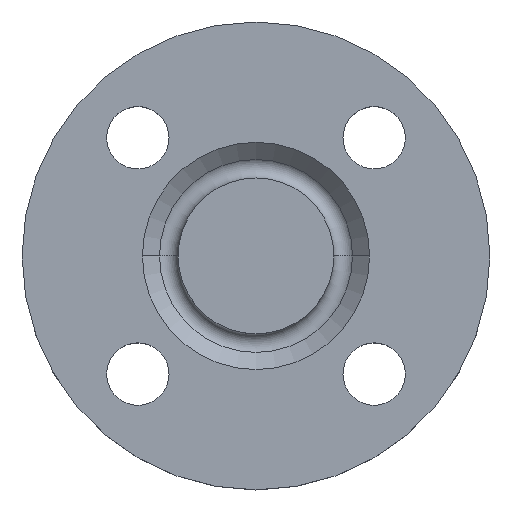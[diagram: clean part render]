
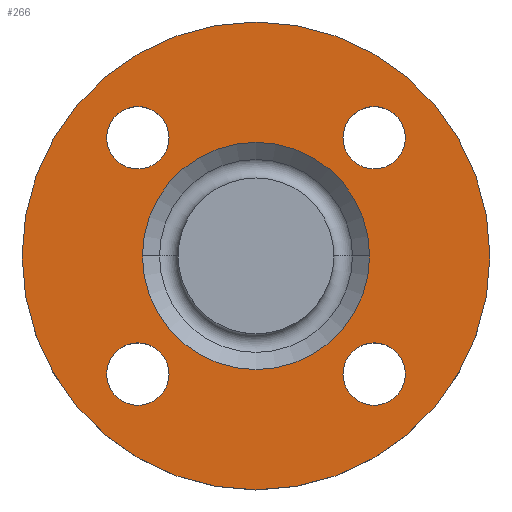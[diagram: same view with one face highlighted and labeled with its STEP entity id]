
A CAD part, top view. The second image highlights one B-rep face of the part: STEP entity #266.
In plain terms, the highlighted planar face has unit normal (0, 0, 1).
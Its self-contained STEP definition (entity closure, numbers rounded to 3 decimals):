
#2 = EDGE_CURVE ( 'NONE', #337, #531, #328, .T. ) ;
#8 = DIRECTION ( 'NONE',  ( -1., 0., 0. ) ) ;
#10 = DIRECTION ( 'NONE',  ( 0., 0., -1. ) ) ;
#11 = CARTESIAN_POINT ( 'NONE',  ( 0., 0., -2. ) ) ;
#38 = EDGE_CURVE ( 'NONE', #509, #551, #313, .T. ) ;
#41 = CARTESIAN_POINT ( 'NONE',  ( -25.5, 0., -2. ) ) ;
#49 = CARTESIAN_POINT ( 'NONE',  ( 19.517, 26.517, -2. ) ) ;
#51 = CARTESIAN_POINT ( 'NONE',  ( -33.517, -26.517, -2. ) ) ;
#67 = CARTESIAN_POINT ( 'NONE',  ( -33.517, 26.517, -2. ) ) ;
#70 = CARTESIAN_POINT ( 'NONE',  ( 26.517, -26.517, -2. ) ) ;
#120 = CIRCLE ( 'NONE', #131, 7. ) ;
#127 = CIRCLE ( 'NONE', #341, 7. ) ;
#131 = AXIS2_PLACEMENT_3D ( 'NONE', #70, #280, #286 ) ;
#132 = CIRCLE ( 'NONE', #437, 52.5 ) ;
#142 = AXIS2_PLACEMENT_3D ( 'NONE', #569, #571, #572 ) ;
#156 = CIRCLE ( 'NONE', #282, 25.5 ) ;
#173 = CARTESIAN_POINT ( 'NONE',  ( 52.5, 0., -2. ) ) ;
#175 = AXIS2_PLACEMENT_3D ( 'NONE', #720, #721, #722 ) ;
#197 = EDGE_CURVE ( 'NONE', #551, #509, #666, .T. ) ;
#204 = EDGE_CURVE ( 'NONE', #544, #332, #409, .T. ) ;
#216 = EDGE_CURVE ( 'NONE', #543, #333, #399, .T. ) ;
#217 = EDGE_CURVE ( 'NONE', #457, #550, #621, .T. ) ;
#235 = CARTESIAN_POINT ( 'NONE',  ( -26.517, -26.517, -2. ) ) ;
#236 = DIRECTION ( 'NONE',  ( 0., 0., -1. ) ) ;
#237 = DIRECTION ( 'NONE',  ( 1., 0., 0. ) ) ;
#248 = CARTESIAN_POINT ( 'NONE',  ( 33.517, 26.517, -2. ) ) ;
#253 = EDGE_CURVE ( 'NONE', #533, #521, #127, .T. ) ;
#258 = CARTESIAN_POINT ( 'NONE',  ( 0., 0., -2. ) ) ;
#259 = DIRECTION ( 'NONE',  ( 0., 0., -1. ) ) ;
#262 = DIRECTION ( 'NONE',  ( -1., 0., 0. ) ) ;
#265 = CARTESIAN_POINT ( 'NONE',  ( -19.517, 26.517, -2. ) ) ;
#266 = ADVANCED_FACE ( 'NONE', ( #700, #703, #705, #706, #707, #709 ), #710, .T. ) ;
#273 = CARTESIAN_POINT ( 'NONE',  ( 19.517, -26.517, -2. ) ) ;
#279 = CARTESIAN_POINT ( 'NONE',  ( -52.5, 0., -2. ) ) ;
#280 = DIRECTION ( 'NONE',  ( 0., 0., -1. ) ) ;
#282 = AXIS2_PLACEMENT_3D ( 'NONE', #11, #10, #8 ) ;
#286 = DIRECTION ( 'NONE',  ( 1., 0., 0. ) ) ;
#288 = CARTESIAN_POINT ( 'NONE',  ( 33.517, -26.517, -2. ) ) ;
#291 = CIRCLE ( 'NONE', #324, 7. ) ;
#298 = EDGE_CURVE ( 'NONE', #550, #457, #489, .T. ) ;
#313 = CIRCLE ( 'NONE', #142, 7. ) ;
#324 = AXIS2_PLACEMENT_3D ( 'NONE', #235, #236, #237 ) ;
#327 = AXIS2_PLACEMENT_3D ( 'NONE', #559, #560, #561 ) ;
#328 = CIRCLE ( 'NONE', #327, 52.5 ) ;
#332 = VERTEX_POINT ( 'NONE', #741 ) ;
#333 = VERTEX_POINT ( 'NONE', #742 ) ;
#337 = VERTEX_POINT ( 'NONE', #173 ) ;
#341 = AXIS2_PLACEMENT_3D ( 'NONE', #696, #698, #699 ) ;
#344 = EDGE_LOOP ( 'NONE', ( #424, #429 ) ) ;
#399 = CIRCLE ( 'NONE', #728, 25.5 ) ;
#402 = AXIS2_PLACEMENT_3D ( 'NONE', #655, #656, #657 ) ;
#405 = EDGE_LOOP ( 'NONE', ( #430, #433 ) ) ;
#407 = ORIENTED_EDGE ( 'NONE', *, *, #632, .T. ) ;
#408 = ORIENTED_EDGE ( 'NONE', *, *, #253, .T. ) ;
#409 = CIRCLE ( 'NONE', #410, 7. ) ;
#410 = AXIS2_PLACEMENT_3D ( 'NONE', #662, #663, #664 ) ;
#412 = AXIS2_PLACEMENT_3D ( 'NONE', #675, #677, #679 ) ;
#418 = ORIENTED_EDGE ( 'NONE', *, *, #421, .T. ) ;
#421 = EDGE_CURVE ( 'NONE', #332, #544, #291, .T. ) ;
#423 = ORIENTED_EDGE ( 'NONE', *, *, #204, .T. ) ;
#424 = ORIENTED_EDGE ( 'NONE', *, *, #38, .T. ) ;
#429 = ORIENTED_EDGE ( 'NONE', *, *, #197, .T. ) ;
#430 = ORIENTED_EDGE ( 'NONE', *, *, #217, .T. ) ;
#433 = ORIENTED_EDGE ( 'NONE', *, *, #298, .T. ) ;
#434 = ORIENTED_EDGE ( 'NONE', *, *, #676, .T. ) ;
#435 = ORIENTED_EDGE ( 'NONE', *, *, #216, .T. ) ;
#437 = AXIS2_PLACEMENT_3D ( 'NONE', #258, #259, #262 ) ;
#438 = ORIENTED_EDGE ( 'NONE', *, *, #2, .F. ) ;
#439 = ORIENTED_EDGE ( 'NONE', *, *, #503, .F. ) ;
#457 = VERTEX_POINT ( 'NONE', #248 ) ;
#489 = CIRCLE ( 'NONE', #175, 7. ) ;
#503 = EDGE_CURVE ( 'NONE', #531, #337, #132, .T. ) ;
#509 = VERTEX_POINT ( 'NONE', #265 ) ;
#510 = EDGE_LOOP ( 'NONE', ( #418, #423 ) ) ;
#511 = EDGE_LOOP ( 'NONE', ( #408, #407 ) ) ;
#521 = VERTEX_POINT ( 'NONE', #273 ) ;
#526 = EDGE_LOOP ( 'NONE', ( #434, #435 ) ) ;
#531 = VERTEX_POINT ( 'NONE', #279 ) ;
#533 = VERTEX_POINT ( 'NONE', #288 ) ;
#542 = EDGE_LOOP ( 'NONE', ( #438, #439 ) ) ;
#543 = VERTEX_POINT ( 'NONE', #41 ) ;
#544 = VERTEX_POINT ( 'NONE', #51 ) ;
#550 = VERTEX_POINT ( 'NONE', #49 ) ;
#551 = VERTEX_POINT ( 'NONE', #67 ) ;
#559 = CARTESIAN_POINT ( 'NONE',  ( 0., 0., -2. ) ) ;
#560 = DIRECTION ( 'NONE',  ( 0., 0., -1. ) ) ;
#561 = DIRECTION ( 'NONE',  ( -1., 0., 0. ) ) ;
#569 = CARTESIAN_POINT ( 'NONE',  ( -26.517, 26.517, -2. ) ) ;
#571 = DIRECTION ( 'NONE',  ( 0., 0., -1. ) ) ;
#572 = DIRECTION ( 'NONE',  ( 1., 0., 0. ) ) ;
#621 = CIRCLE ( 'NONE', #412, 7. ) ;
#632 = EDGE_CURVE ( 'NONE', #521, #533, #120, .T. ) ;
#655 = CARTESIAN_POINT ( 'NONE',  ( -26.517, 26.517, -2. ) ) ;
#656 = DIRECTION ( 'NONE',  ( 0., 0., -1. ) ) ;
#657 = DIRECTION ( 'NONE',  ( 1., 0., 0. ) ) ;
#662 = CARTESIAN_POINT ( 'NONE',  ( -26.517, -26.517, -2. ) ) ;
#663 = DIRECTION ( 'NONE',  ( 0., 0., -1. ) ) ;
#664 = DIRECTION ( 'NONE',  ( 1., 0., 0. ) ) ;
#666 = CIRCLE ( 'NONE', #402, 7. ) ;
#672 = CARTESIAN_POINT ( 'NONE',  ( 0., 0., -2. ) ) ;
#673 = DIRECTION ( 'NONE',  ( 0., 0., -1. ) ) ;
#674 = DIRECTION ( 'NONE',  ( -1., 0., 0. ) ) ;
#675 = CARTESIAN_POINT ( 'NONE',  ( 26.517, 26.517, -2. ) ) ;
#676 = EDGE_CURVE ( 'NONE', #333, #543, #156, .T. ) ;
#677 = DIRECTION ( 'NONE',  ( 0., 0., -1. ) ) ;
#679 = DIRECTION ( 'NONE',  ( 1., 0., 0. ) ) ;
#696 = CARTESIAN_POINT ( 'NONE',  ( 26.517, -26.517, -2. ) ) ;
#698 = DIRECTION ( 'NONE',  ( 0., 0., -1. ) ) ;
#699 = DIRECTION ( 'NONE',  ( 1., 0., 0. ) ) ;
#700 = FACE_BOUND ( 'NONE', #511, .T. ) ;
#703 = FACE_BOUND ( 'NONE', #510, .T. ) ;
#705 = FACE_BOUND ( 'NONE', #344, .T. ) ;
#706 = FACE_BOUND ( 'NONE', #405, .T. ) ;
#707 = FACE_BOUND ( 'NONE', #526, .T. ) ;
#709 = FACE_OUTER_BOUND ( 'NONE', #542, .T. ) ;
#710 = PLANE ( 'NONE',  #718 ) ;
#711 = CARTESIAN_POINT ( 'NONE',  ( 52.5, 0., -2. ) ) ;
#712 = DIRECTION ( 'NONE',  ( 0., 0., 1. ) ) ;
#714 = DIRECTION ( 'NONE',  ( 1., 0., 0. ) ) ;
#718 = AXIS2_PLACEMENT_3D ( 'NONE', #711, #712, #714 ) ;
#720 = CARTESIAN_POINT ( 'NONE',  ( 26.517, 26.517, -2. ) ) ;
#721 = DIRECTION ( 'NONE',  ( 0., 0., -1. ) ) ;
#722 = DIRECTION ( 'NONE',  ( 1., 0., 0. ) ) ;
#728 = AXIS2_PLACEMENT_3D ( 'NONE', #672, #673, #674 ) ;
#741 = CARTESIAN_POINT ( 'NONE',  ( -19.517, -26.517, -2. ) ) ;
#742 = CARTESIAN_POINT ( 'NONE',  ( 25.5, 0., -2. ) ) ;
